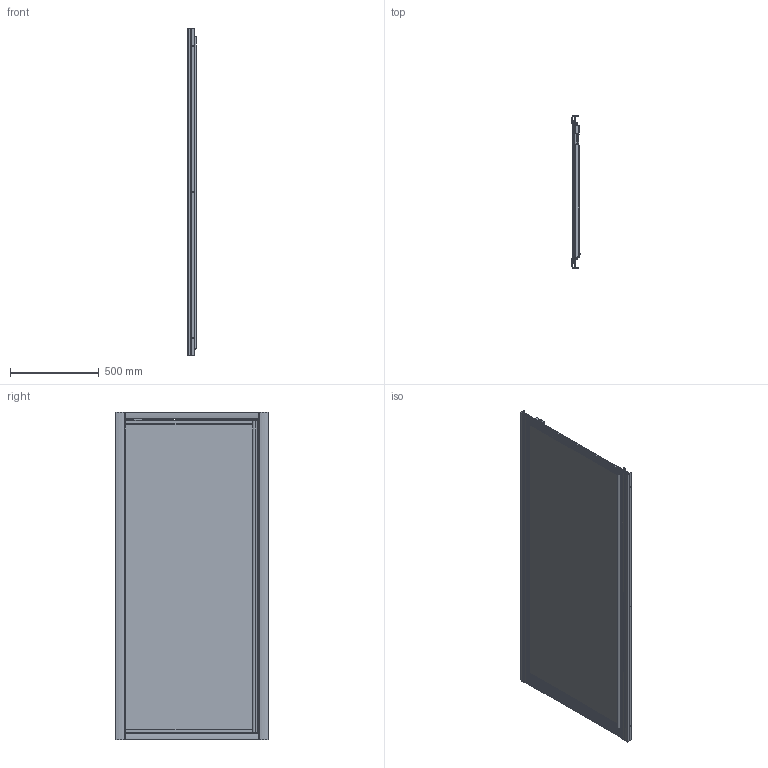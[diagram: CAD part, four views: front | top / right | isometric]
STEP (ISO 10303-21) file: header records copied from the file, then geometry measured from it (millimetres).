
FILE_DESCRIPTION(/* description */ (''),/* implementation_level */ '2;1');
FILE_NAME(/* name */ 'C:\Users\benassi\Desktop\dwg 3D\America tre 2019\America 3 battente 86-94.stp',/* time_stamp */ '2018-07-17T14:08:52+02:00',/* author */ ('benassi'),/* organization */ (''),/* preprocessor_version */ 'ST-DEVELOPER v16.1',/* originating_system */ 'Autodesk Inventor 2016',/* authorisation */ '');
FILE_SCHEMA (('AUTOMOTIVE_DESIGN { 1 0 10303 214 3 1 1 }'));
Length unit declared in the file: millimetre
Products named in the file (27): 10000021304; 10000021490; 10000021490_1; 10000008458; 10000008457; 10000008478; 10000008479; 10000004703_IPT_000; 4-0223; 4-0223_1; 10000000386_IPT_000; 10000021492; 10000021491; 10000000633_IPT_000; 10000009407; 10000009408; 10000000286_IPT_000; 10000021106; 10000021313; 10000000633_IPT_000_1; 10000013432; 10000013433; 10000013434; ISO 7049 - ST3,5 x 22 - C - H; ISO 7049 - ST3,5 x 16 - C - H; VITE TC 2,9-38; 10000021489
Assembly tree (41 placements, depth 3):
  10000021489
    10000021304  x2
    10000021490
    10000021490_1
    10000008458  x2
    10000008457  x2
    10000008478
    10000008479
    10000004703_IPT_000
    4-0223
    4-0223_1
    10000000386_IPT_000  x2
    10000021492
    10000021491  x2
    10000000633_IPT_000
    10000009407
    10000009408
    10000000286_IPT_000
    10000021106
    10000021313
    10000000633_IPT_000_1
    10000013434  x4
      10000013432
      10000013433
    ISO 7049 - ST3,5 x 22 - C - H  x4
    ISO 7049 - ST3,5 x 16 - C - H  x2
    VITE TC 2,9-38  x4
Bounding box: 48.82 x 860.39 x 1850 mm (x, y, z)
Volume: 6057063.3 mm3; surface area: 6433241.1 mm2
Topology: 43 solids, 43 shells, 2095 faces, 5852 edges, 3845 vertices
Faces by surface type: plane 1055, cylinder 798, cone 150, torus 64, sphere 18, bspline 10
Full cylindrical faces by diameter (mm): 2.9 x4, 3.1 x4, 3.4 x2, 3.5 x18, 3.9 x4, 4 x8, 4.5 x2, 5 x7, 6.3 x4, 7.3 x4, 7.6 x8, 8 x4, 8.2 x2, 9 x4, 15 x2
Entity records: 49997 total; most frequent: CARTESIAN_POINT 10695, DIRECTION 8204, ORIENTED_EDGE 8038, EDGE_CURVE 4019, AXIS2_PLACEMENT_3D 2877, VERTEX_POINT 2678, LINE 2450, VECTOR 2450
